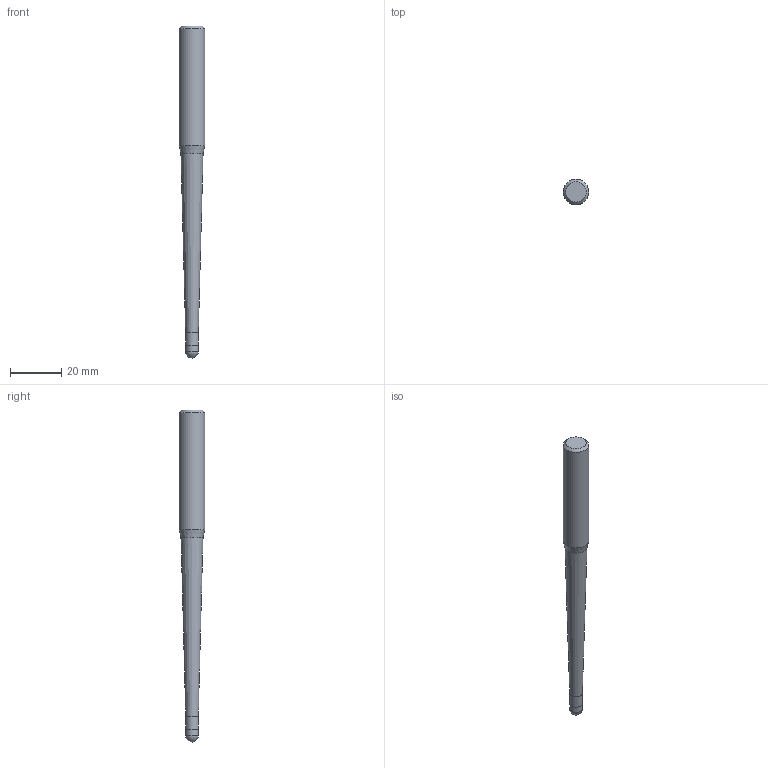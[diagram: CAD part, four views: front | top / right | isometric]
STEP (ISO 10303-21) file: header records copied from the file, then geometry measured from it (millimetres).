
FILE_DESCRIPTION((''),'2;1');
FILE_NAME('C:\Users\nsx150\AppData\Local\Temp\Mastercam 2021\SNAKH10GOD\TEMP.step','2021-10-21T13:33:51',(''),(''),'STEP Write','Mastercam 2021 ... CNC Software, Inc.','');
FILE_SCHEMA(('AUTOMOTIVE_DESIGN'));
Length unit declared in the file: millimetre
Products named in the file (1): None
Bounding box: 10 x 10 x 130 mm (x, y, z)
Volume: 6683.6 mm3; surface area: 3322.4 mm2
Topology: 2 solids, 2 shells, 10 faces, 16 edges, 9 vertices
Faces by surface type: plane 3, cylinder 3, cone 3, sphere 1
Full cylindrical faces by diameter (mm): 4.98 x1, 5 x1, 10 x1
Entity records: 232 total; most frequent: DIRECTION 40, CARTESIAN_POINT 28, AXIS2_PLACEMENT_3D 20, ORIENTED_EDGE 16, EDGE_LOOP 16, STYLED_ITEM 13, ADVANCED_FACE 10, FACE_BOUND 9
